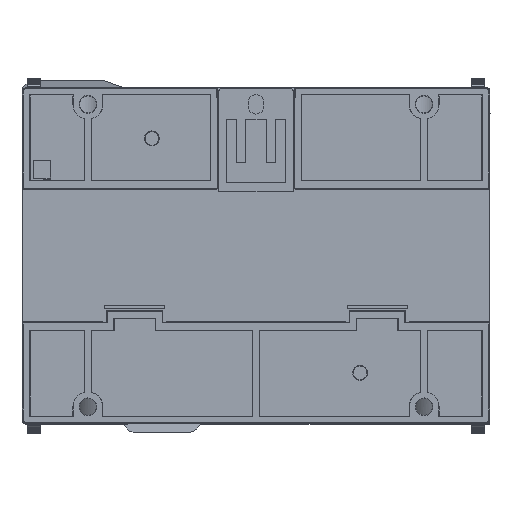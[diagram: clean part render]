
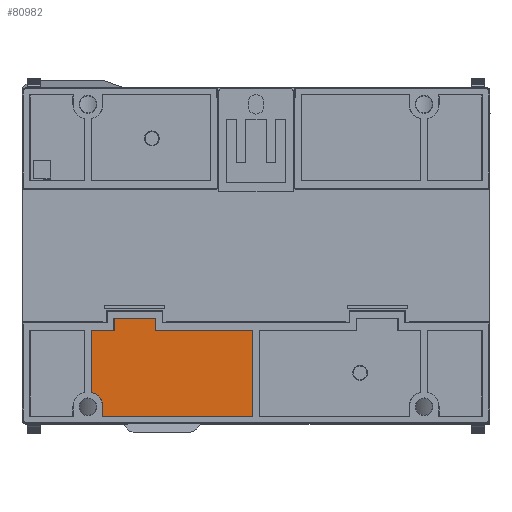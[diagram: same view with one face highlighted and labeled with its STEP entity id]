
A CAD part, top view. The second image highlights one B-rep face of the part: STEP entity #80982.
In plain terms, the highlighted planar face has unit normal (0, 0, 1).
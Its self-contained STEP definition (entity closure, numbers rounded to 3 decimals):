
#29699=DIRECTION('',(1.,0.,0.));
#29700=VECTOR('',#29699,6.);
#29701=CARTESIAN_POINT('',(-44.,-20.011,2.6));
#29702=LINE('',#29701,#29700);
#29703=DIRECTION('',(0.,1.,0.));
#29704=VECTOR('',#29703,3.262);
#29705=CARTESIAN_POINT('',(-38.,-20.011,2.6));
#29706=LINE('',#29705,#29704);
#29707=DIRECTION('',(1.,0.,0.));
#29708=VECTOR('',#29707,11.);
#29709=CARTESIAN_POINT('',(-38.,-16.749,2.6));
#29710=LINE('',#29709,#29708);
#29711=DIRECTION('',(0.,-1.,0.));
#29712=VECTOR('',#29711,3.262);
#29713=CARTESIAN_POINT('',(-27.,-16.749,2.6));
#29714=LINE('',#29713,#29712);
#29715=DIRECTION('',(1.,0.,0.));
#29716=VECTOR('',#29715,26.);
#29717=CARTESIAN_POINT('',(-27.,-20.011,2.6));
#29718=LINE('',#29717,#29716);
#29719=DIRECTION('',(0.,-1.,0.));
#29720=VECTOR('',#29719,22.988);
#29721=CARTESIAN_POINT('',(-1.,-20.011,2.6));
#29722=LINE('',#29721,#29720);
#29723=DIRECTION('',(-1.,0.,0.));
#29724=VECTOR('',#29723,40.);
#29725=CARTESIAN_POINT('',(-1.,-42.999,2.6));
#29726=LINE('',#29725,#29724);
#29727=CARTESIAN_POINT('',(-45.,-40.499,2.6));
#29728=DIRECTION('',(0.,0.,1.));
#29729=DIRECTION('',(1.,0.,0.));
#29730=AXIS2_PLACEMENT_3D('',#29727,#29728,#29729);
#29736=DIRECTION('',(0.,-1.,0.));
#29737=VECTOR('',#29736,16.615);
#29738=CARTESIAN_POINT('',(-44.,-20.011,2.6));
#29739=LINE('',#29738,#29737);
#29791=DIRECTION('',(0.,-1.,0.));
#29792=VECTOR('',#29791,2.5);
#29793=CARTESIAN_POINT('',(-41.,-40.499,2.6));
#29794=LINE('',#29793,#29792);
#36376=CARTESIAN_POINT('',(-1.,-20.011,2.6));
#36377=CARTESIAN_POINT('',(-1.,-42.999,2.6));
#36378=VERTEX_POINT('',#36376);
#36379=VERTEX_POINT('',#36377);
#36380=CARTESIAN_POINT('',(-44.,-20.011,2.6));
#36381=CARTESIAN_POINT('',(-44.,-36.626,2.6));
#36382=VERTEX_POINT('',#36380);
#36383=VERTEX_POINT('',#36381);
#36384=CARTESIAN_POINT('',(-38.,-20.011,2.6));
#36385=VERTEX_POINT('',#36384);
#36386=CARTESIAN_POINT('',(-38.,-16.749,2.6));
#36387=VERTEX_POINT('',#36386);
#36388=CARTESIAN_POINT('',(-27.,-16.749,2.6));
#36389=VERTEX_POINT('',#36388);
#36390=CARTESIAN_POINT('',(-27.,-20.011,2.6));
#36391=VERTEX_POINT('',#36390);
#36392=CARTESIAN_POINT('',(-41.,-42.999,2.6));
#36393=VERTEX_POINT('',#36392);
#36394=CARTESIAN_POINT('',(-41.,-40.499,2.6));
#36395=VERTEX_POINT('',#36394);
#80956=CARTESIAN_POINT('',(0.,0.001,2.6));
#80957=DIRECTION('',(0.,0.,1.));
#80958=DIRECTION('',(-1.,0.,0.));
#80959=AXIS2_PLACEMENT_3D('',#80956,#80957,#80958);
#80960=PLANE('',#80959);
#80962=ORIENTED_EDGE('',*,*,#80961,.F.);
#80964=ORIENTED_EDGE('',*,*,#80963,.T.);
#80966=ORIENTED_EDGE('',*,*,#80965,.T.);
#80968=ORIENTED_EDGE('',*,*,#80967,.T.);
#80970=ORIENTED_EDGE('',*,*,#80969,.T.);
#80972=ORIENTED_EDGE('',*,*,#80971,.T.);
#80973=ORIENTED_EDGE('',*,*,#80946,.T.);
#80975=ORIENTED_EDGE('',*,*,#80974,.T.);
#80977=ORIENTED_EDGE('',*,*,#80976,.F.);
#80979=ORIENTED_EDGE('',*,*,#80978,.T.);
#80980=EDGE_LOOP('',(#80962,#80964,#80966,#80968,#80970,#80972,#80973,#80975,
#80977,#80979));
#80981=FACE_OUTER_BOUND('',#80980,.F.);
#80982=ADVANCED_FACE('',(#80981),#80960,.T.);
#29731=CIRCLE('',#29730,4.);
#80946=EDGE_CURVE('',#36378,#36379,#29722,.T.);
#80961=EDGE_CURVE('',#36382,#36383,#29739,.T.);
#80963=EDGE_CURVE('',#36382,#36385,#29702,.T.);
#80965=EDGE_CURVE('',#36385,#36387,#29706,.T.);
#80967=EDGE_CURVE('',#36387,#36389,#29710,.T.);
#80969=EDGE_CURVE('',#36389,#36391,#29714,.T.);
#80971=EDGE_CURVE('',#36391,#36378,#29718,.T.);
#80974=EDGE_CURVE('',#36379,#36393,#29726,.T.);
#80976=EDGE_CURVE('',#36395,#36393,#29794,.T.);
#80978=EDGE_CURVE('',#36395,#36383,#29731,.T.);
